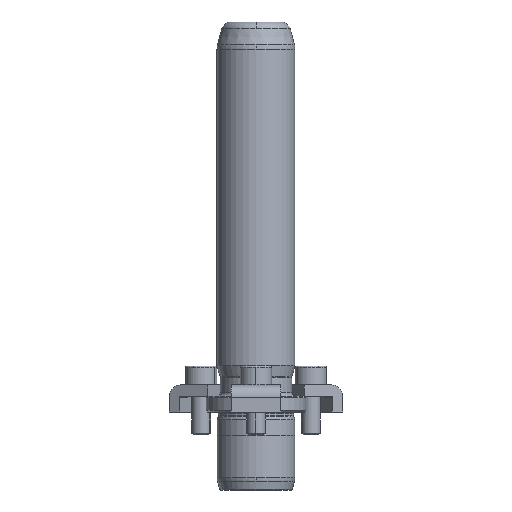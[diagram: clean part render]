
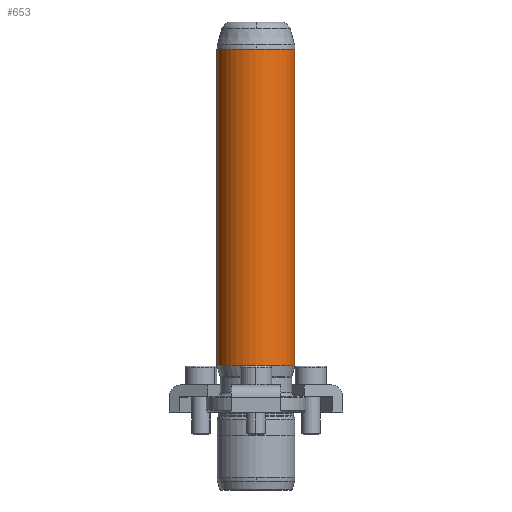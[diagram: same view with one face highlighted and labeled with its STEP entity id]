
A CAD part, front view. The second image highlights one B-rep face of the part: STEP entity #653.
In plain terms, the highlighted cylindrical face has radius 12.5 mm (diameter 25 mm), a partial arc.
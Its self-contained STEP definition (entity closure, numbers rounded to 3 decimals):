
#566=CARTESIAN_POINT('',(0.0,-12.5,116.342));
#567=VERTEX_POINT('',#566);
#594=CARTESIAN_POINT('',(-12.5,0.,116.342));
#595=VERTEX_POINT('',#594);
#603=CARTESIAN_POINT('',(0.0,0.,116.342));
#604=DIRECTION('',(0.0,0.0,1.0));
#605=DIRECTION('',(1.0,0.0,0.0));
#606=AXIS2_PLACEMENT_3D('',#603,#604,#605);
#607=CIRCLE('',#606,12.5);
#608=EDGE_CURVE('',#595,#567,#607,.T.);
#613=CARTESIAN_POINT('',(0.0,0.,65.671));
#614=DIRECTION('',(0.0,0.,1.0));
#615=DIRECTION('',(1.0,0.0,0.0));
#616=AXIS2_PLACEMENT_3D('',#613,#614,#615);
#617=CYLINDRICAL_SURFACE('',#616,12.5);
#618=CARTESIAN_POINT('',(12.5,0.,116.342));
#619=VERTEX_POINT('',#618);
#620=CARTESIAN_POINT('',(12.5,0.,15.0));
#621=VERTEX_POINT('',#620);
#622=CARTESIAN_POINT('',(12.5,0.,116.342));
#623=DIRECTION('',(0.0,0.0,-1.0));
#624=VECTOR('',#623,101.342);
#625=LINE('',#622,#624);
#626=EDGE_CURVE('',#619,#621,#625,.T.);
#627=ORIENTED_EDGE('',*,*,#626,.F.);
#628=CARTESIAN_POINT('',(0.0,0.,116.342));
#629=DIRECTION('',(0.0,0.0,1.0));
#630=DIRECTION('',(1.0,0.0,0.0));
#631=AXIS2_PLACEMENT_3D('',#628,#629,#630);
#632=CIRCLE('',#631,12.5);
#633=EDGE_CURVE('',#567,#619,#632,.T.);
#634=ORIENTED_EDGE('',*,*,#633,.F.);
#635=ORIENTED_EDGE('',*,*,#608,.F.);
#636=CARTESIAN_POINT('',(-12.5,0.,15.0));
#637=VERTEX_POINT('',#636);
#638=CARTESIAN_POINT('',(-12.5,0.,116.342));
#639=DIRECTION('',(0.0,0.0,-1.0));
#640=VECTOR('',#639,101.342);
#641=LINE('',#638,#640);
#642=EDGE_CURVE('',#595,#637,#641,.T.);
#643=ORIENTED_EDGE('',*,*,#642,.T.);
#644=CARTESIAN_POINT('',(0.0,0.,15.0));
#645=DIRECTION('',(0.0,0.0,1.0));
#646=DIRECTION('',(1.0,0.0,0.0));
#647=AXIS2_PLACEMENT_3D('',#644,#645,#646);
#648=CIRCLE('',#647,12.5);
#649=EDGE_CURVE('',#637,#621,#648,.T.);
#650=ORIENTED_EDGE('',*,*,#649,.T.);
#651=EDGE_LOOP('',(#627,#634,#635,#643,#650));
#652=FACE_OUTER_BOUND('',#651,.T.);
#653=ADVANCED_FACE('',(#652),#617,.T.);
